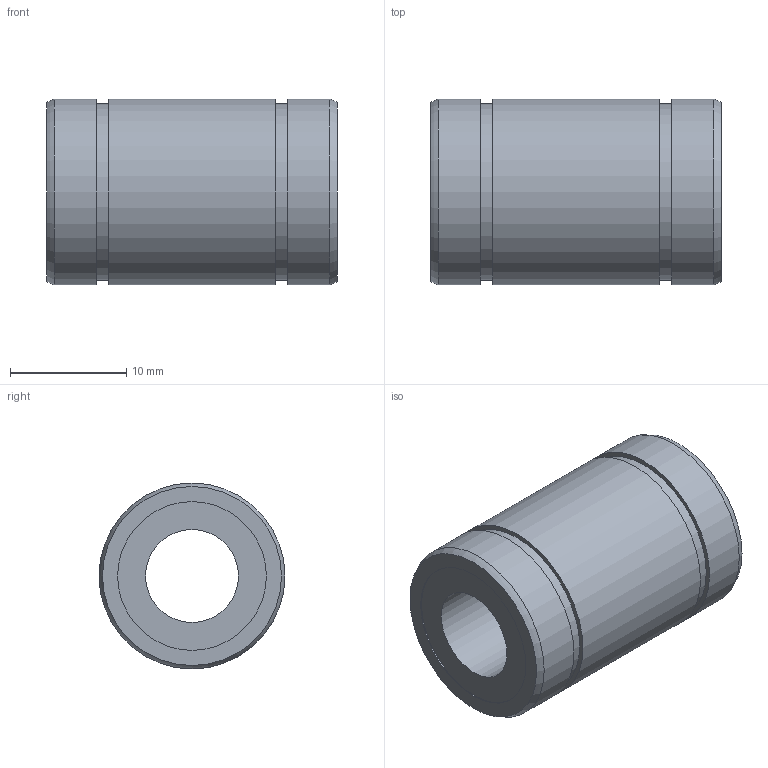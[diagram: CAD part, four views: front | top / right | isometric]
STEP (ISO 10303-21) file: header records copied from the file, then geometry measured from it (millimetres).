
FILE_DESCRIPTION((''),'2;1');
FILE_NAME('D:\製品 (図面)\カタログ用3D\リニアベアリング関連\STEP形式\LE\LE8.stp','2010-06-03T09:04:18',('Tsuchiya'),(''),'Autodesk Inventor 10','Autodesk Inventor 10','');
FILE_SCHEMA(('AUTOMOTIVE_DESIGN { 1 0 10303 214 1 1 1 1 }'));
Length unit declared in the file: millimetre
Products named in the file (1): LE8
Bounding box: 25 x 16 x 16 mm (x, y, z)
Volume: 3702.5 mm3; surface area: 2238.5 mm2
Topology: 1 solids, 1 shells, 18 faces, 28 edges, 18 vertices
Faces by surface type: plane 8, cylinder 8, torus 2
Full cylindrical faces by diameter (mm): 8 x1, 12.8 x2, 15.2 x2, 16 x3
Entity records: 391 total; most frequent: DIRECTION 74, CARTESIAN_POINT 55, AXIS2_PLACEMENT_3D 37, ORIENTED_EDGE 36, EDGE_LOOP 36, VERTEX_POINT 18, CIRCLE 18, EDGE_CURVE 18
